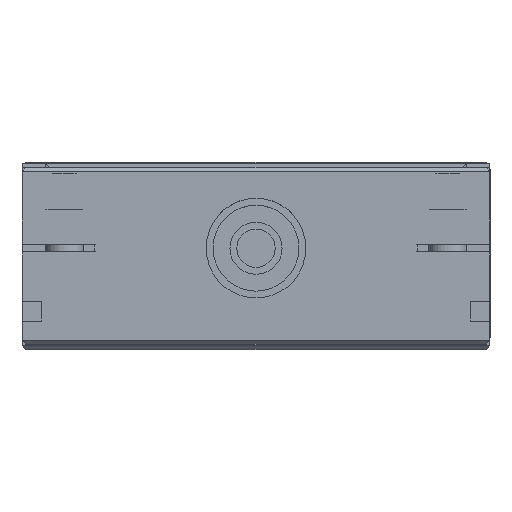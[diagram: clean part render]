
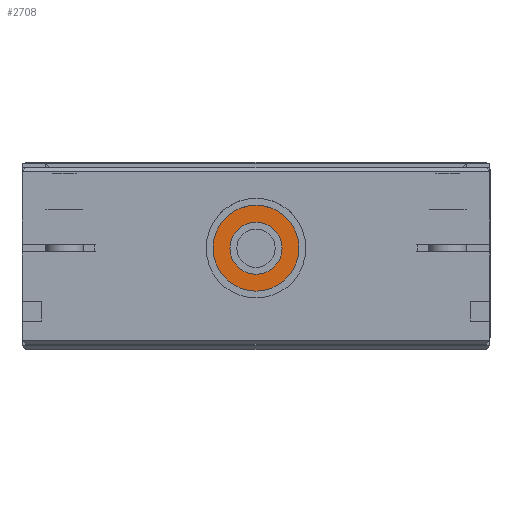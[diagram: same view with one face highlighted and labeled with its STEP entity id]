
A CAD part, top view. The second image highlights one B-rep face of the part: STEP entity #2708.
In plain terms, the highlighted planar face has unit normal (0, 0, 1) as drawn and (1, 0, 0) by its records, which use the part's own axes.
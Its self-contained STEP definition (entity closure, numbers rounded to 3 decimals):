
#620 = EDGE_CURVE ( 'NONE', #17615, #24015, #19947, .T. ) ;
#1425 = CIRCLE ( 'NONE', #48624, 6.8 ) ;
#2280 = CARTESIAN_POINT ( 'NONE',  ( 403., 25., 0. ) ) ;
#2708 = ADVANCED_FACE ( 'NONE', ( #34454, #30407 ), #26356, .F. ) ;
#2712 = ORIENTED_EDGE ( 'NONE', *, *, #23306, .T. ) ;
#2880 = CARTESIAN_POINT ( 'NONE',  ( 403., 25., 11.2 ) ) ;
#3454 = CARTESIAN_POINT ( 'NONE',  ( 403., 31.8, 0. ) ) ;
#3586 = AXIS2_PLACEMENT_3D ( 'NONE', #19969, #45912, #28294 ) ;
#5180 = EDGE_CURVE ( 'NONE', #15095, #53101, #6730, .T. ) ;
#6730 = CIRCLE ( 'NONE', #47925, 11.2 ) ;
#7492 = DIRECTION ( 'NONE',  ( 0., 0., 1. ) ) ;
#7535 = EDGE_LOOP ( 'NONE', ( #20458, #50844 ) ) ;
#9708 = CARTESIAN_POINT ( 'NONE',  ( 403., 25., -6.8 ) ) ;
#10839 = AXIS2_PLACEMENT_3D ( 'NONE', #3454, #48355, #7492 ) ;
#11161 = DIRECTION ( 'NONE',  ( -1., 0., 0. ) ) ;
#13542 = CIRCLE ( 'NONE', #25606, 11.2 ) ;
#14941 = CARTESIAN_POINT ( 'NONE',  ( 403., 25., -11.2 ) ) ;
#15095 = VERTEX_POINT ( 'NONE', #14941 ) ;
#15195 = DIRECTION ( 'NONE',  ( 0., 0., 1. ) ) ;
#15559 = EDGE_LOOP ( 'NONE', ( #53017, #2712 ) ) ;
#17615 = VERTEX_POINT ( 'NONE', #22040 ) ;
#19152 = CARTESIAN_POINT ( 'NONE',  ( 403., 25., 0. ) ) ;
#19947 = CIRCLE ( 'NONE', #3586, 6.8 ) ;
#19969 = CARTESIAN_POINT ( 'NONE',  ( 403., 25., 0. ) ) ;
#20458 = ORIENTED_EDGE ( 'NONE', *, *, #32316, .F. ) ;
#22040 = CARTESIAN_POINT ( 'NONE',  ( 403., 25., 6.8 ) ) ;
#22390 = DIRECTION ( 'NONE',  ( 0., 0., 1. ) ) ;
#23306 = EDGE_CURVE ( 'NONE', #24015, #17615, #1425, .T. ) ;
#24015 = VERTEX_POINT ( 'NONE', #9708 ) ;
#25606 = AXIS2_PLACEMENT_3D ( 'NONE', #2280, #11161, #15195 ) ;
#26356 = PLANE ( 'NONE',  #10839 ) ;
#28294 = DIRECTION ( 'NONE',  ( 0., 0., 1. ) ) ;
#30407 = FACE_BOUND ( 'NONE', #15559, .T. ) ;
#32316 = EDGE_CURVE ( 'NONE', #53101, #15095, #13542, .T. ) ;
#33462 = DIRECTION ( 'NONE',  ( 0., 0., 1. ) ) ;
#34454 = FACE_OUTER_BOUND ( 'NONE', #7535, .T. ) ;
#37238 = DIRECTION ( 'NONE',  ( -1., 0., 0. ) ) ;
#38030 = CARTESIAN_POINT ( 'NONE',  ( 403., 25., 0. ) ) ;
#45912 = DIRECTION ( 'NONE',  ( -1., 0., 0. ) ) ;
#47925 = AXIS2_PLACEMENT_3D ( 'NONE', #19152, #52163, #22390 ) ;
#48355 = DIRECTION ( 'NONE',  ( -1., 0., 0. ) ) ;
#48624 = AXIS2_PLACEMENT_3D ( 'NONE', #38030, #37238, #33462 ) ;
#50844 = ORIENTED_EDGE ( 'NONE', *, *, #5180, .F. ) ;
#52163 = DIRECTION ( 'NONE',  ( -1., 0., 0. ) ) ;
#53017 = ORIENTED_EDGE ( 'NONE', *, *, #620, .T. ) ;
#53101 = VERTEX_POINT ( 'NONE', #2880 ) ;
